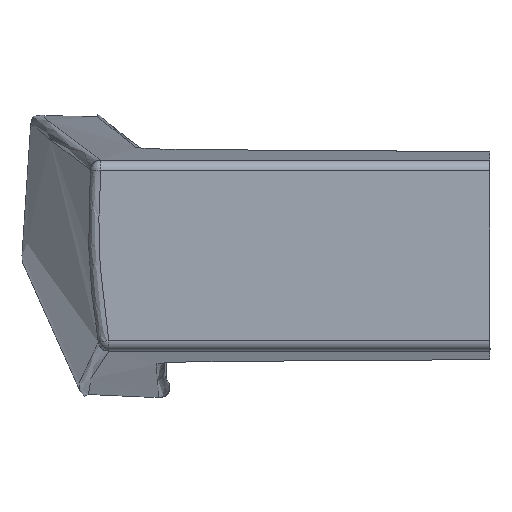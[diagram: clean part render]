
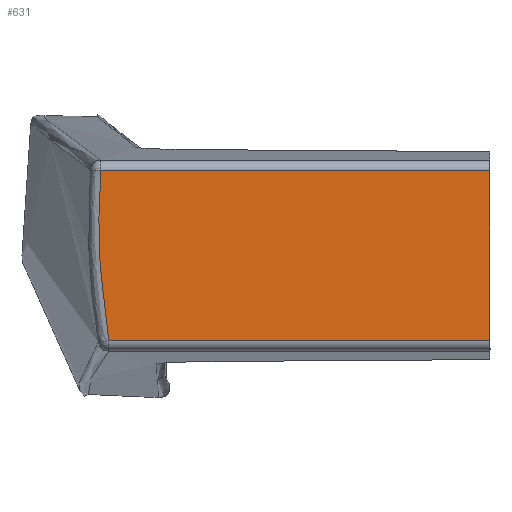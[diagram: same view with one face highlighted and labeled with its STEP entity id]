
A CAD part, left-side view. The second image highlights one B-rep face of the part: STEP entity #631.
In plain terms, the highlighted planar face has unit normal (-1, 0, 0).
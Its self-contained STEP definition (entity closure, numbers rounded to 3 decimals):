
#23=B_SPLINE_CURVE_WITH_KNOTS('',3,(#1001,#1002,#1003,#1004),
 .UNSPECIFIED.,.F.,.F.,(4,4),(-1.054,-0.247),
 .UNSPECIFIED.);
#89=PLANE('',#719);
#115=FACE_OUTER_BOUND('',#159,.T.);
#159=EDGE_LOOP('',(#497,#498,#499,#500));
#190=LINE('',#1014,#208);
#195=LINE('',#1157,#213);
#197=LINE('',#1160,#215);
#208=VECTOR('',#828,10.);
#213=VECTOR('',#853,10.);
#215=VECTOR('',#857,10.);
#277=VERTEX_POINT('',#961);
#285=VERTEX_POINT('',#978);
#286=VERTEX_POINT('',#1010);
#296=VERTEX_POINT('',#1155);
#350=EDGE_CURVE('',#277,#285,#23,.T.);
#354=EDGE_CURVE('',#285,#286,#190,.T.);
#371=EDGE_CURVE('',#296,#277,#195,.T.);
#373=EDGE_CURVE('',#296,#286,#197,.T.);
#497=ORIENTED_EDGE('',*,*,#354,.F.);
#498=ORIENTED_EDGE('',*,*,#350,.F.);
#499=ORIENTED_EDGE('',*,*,#371,.F.);
#500=ORIENTED_EDGE('',*,*,#373,.T.);
#631=ADVANCED_FACE('',(#115),#89,.T.);
#719=AXIS2_PLACEMENT_3D('',#1159,#855,#856);
#828=DIRECTION('',(0.,-1.,0.));
#853=DIRECTION('',(0.,1.,0.));
#855=DIRECTION('center_axis',(-1.,0.,0.));
#856=DIRECTION('ref_axis',(0.,0.,-1.));
#857=DIRECTION('',(0.,0.,1.));
#961=CARTESIAN_POINT('',(-105.,18.159,-4.021));
#978=CARTESIAN_POINT('',(-105.,18.532,4.021));
#1001=CARTESIAN_POINT('Ctrl Pts',(-105.,18.159,-4.021));
#1002=CARTESIAN_POINT('Ctrl Pts',(-105.,18.609,-1.369));
#1003=CARTESIAN_POINT('Ctrl Pts',(-105.,18.735,1.338));
#1004=CARTESIAN_POINT('Ctrl Pts',(-105.,18.532,4.021));
#1010=CARTESIAN_POINT('',(-105.,0.095,4.021));
#1014=CARTESIAN_POINT('',(-105.,23.,4.021));
#1155=CARTESIAN_POINT('',(-105.,0.095,-4.021));
#1157=CARTESIAN_POINT('',(-105.,23.,-4.021));
#1159=CARTESIAN_POINT('Origin',(-105.,23.,4.5));
#1160=CARTESIAN_POINT('',(-105.,0.095,0.));
